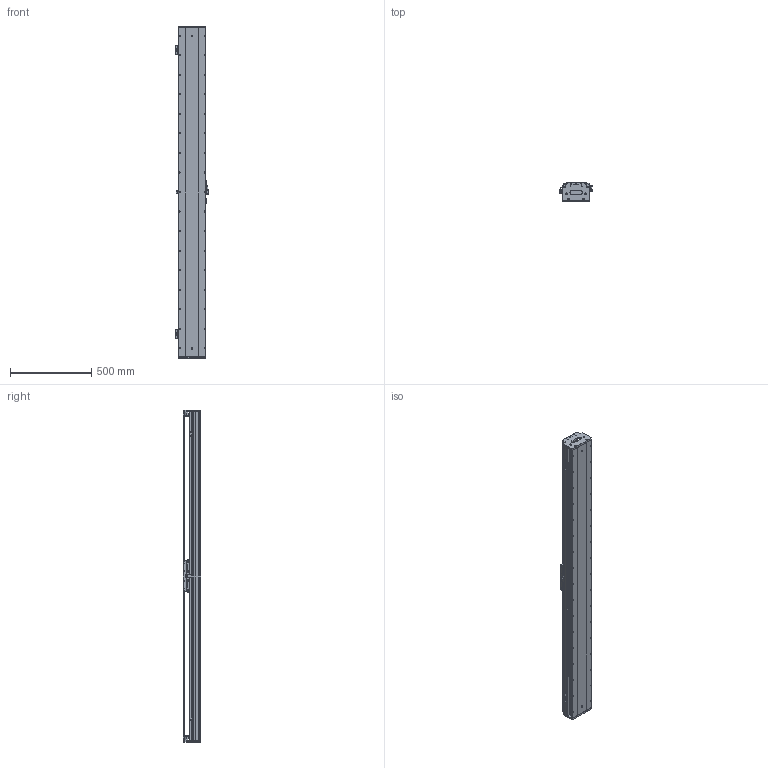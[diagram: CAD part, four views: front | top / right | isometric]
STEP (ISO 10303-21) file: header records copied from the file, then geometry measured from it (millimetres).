
FILE_DESCRIPTION (( 'STEP AP203' ), '1' );
FILE_NAME ('DKW168-C2-W090（T1740-L005-0.2）.STEP', '2021-09-10T00:48:10', ( '微软用户' ), ( '微软中国' ), 'SwSTEP 2.0', 'SolidWorks 2018', '' );
FILE_SCHEMA (( 'CONFIG_CONTROL_DESIGN' ));
Length unit declared in the file: millimetre
Products named in the file (21): 嫖萇羲壽蚾饜极; 10279-0001-006-00 嶺輸菜輸; 10392-0001-001-00 菁釱; DKW-SG-GYP-H-00 嫖萇覜茼え; DKW168 单轴模组-拉钢带组件; MSA20絳寢; 嫖萇羲壽蚾饜极A; CKM01-W090-TRL280; 10279-0001-003-00 傷啣; C2-W090_00; DKW168-RU-DTJ-00 RU2黍杅芛盓殤; DKW168-HXJ-00 遣喳砎蝶; DKW168-C2-W090（T1740-L005-0.2）; RUS嫖掑喜; 10392-0001-002-00 詩湍裔啣; Ru2; 砎蝶猾沭; pm-y65; 10392-0001-003-00 詩湍嶺輸; 10980-0001-003-00 嫖萇羲壽嘐隅釱; 10392-0001-004-00 詩湍揤輸
Assembly tree (32 placements, depth 3):
  DKW168-C2-W090（T1740-L005-0.2）
    10392-0001-001-00 菁釱
    MSA20絳寢  x2
    DKW168 单轴模组-拉钢带组件
      10279-0001-003-00 傷啣  x2
      DKW168-HXJ-00 遣喳砎蝶  x4
      10392-0001-002-00 詩湍裔啣
      砎蝶猾沭  x2
      10392-0001-003-00 詩湍嶺輸  x2
      10392-0001-004-00 詩湍揤輸  x2
      10279-0001-006-00 嶺輸菜輸  x2
    CKM01-W090-TRL280
    DKW168-RU-DTJ-00 RU2黍杅芛盓殤
    RUS嫖掑喜
    Ru2
    嫖萇羲壽蚾饜极
      pm-y65
      10980-0001-003-00 嫖萇羲壽嘐隅釱
    DKW-SG-GYP-H-00 嫖萇覜茼え
    嫖萇羲壽蚾饜极A
      pm-y65  x2
      10980-0001-003-00 嫖萇羲壽嘐隅釱
    C2-W090_00
Bounding box: 202.3 x 109 x 2040 mm (x, y, z)
Volume: 13363561.9 mm3; surface area: 3951560.8 mm2
Topology: 48 solids, 97 shells, 4697 faces, 12275 edges, 7851 vertices
Faces by surface type: plane 2416, cylinder 1512, cone 458, bspline 279, torus 16, sphere 16
Entity records: 142606 total; most frequent: CARTESIAN_POINT 45635, ORIENTED_EDGE 19779, DIRECTION 18815, EDGE_CURVE 9930, VERTEX_POINT 6443, AXIS2_PLACEMENT_3D 6312, LINE 6191, VECTOR 6191
